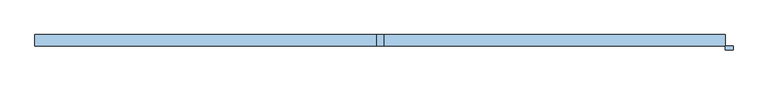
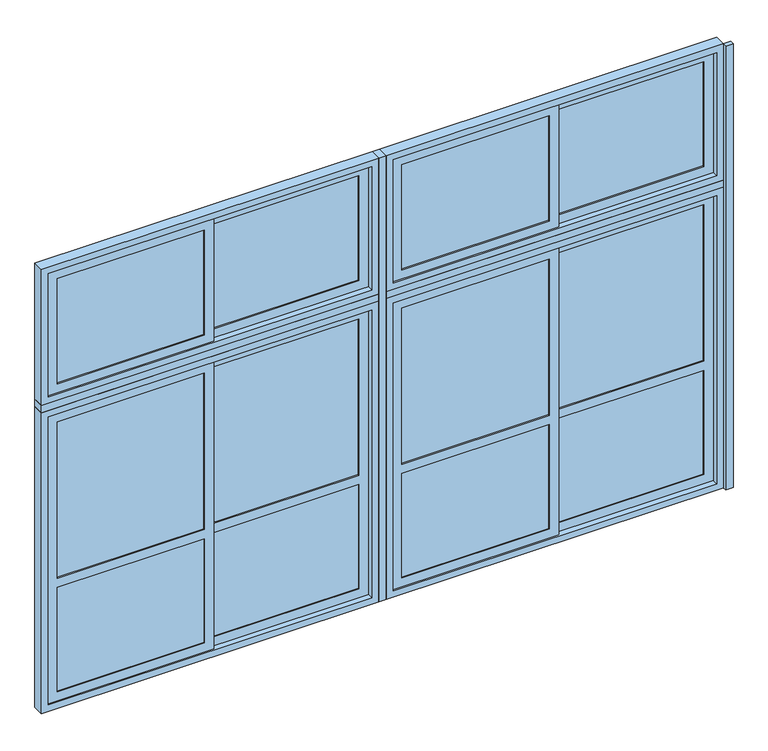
"""IFC4 building model written with IfcOpenShell, lengths in millimetres: window geometry, A11 Ventana_Corrediza_PC_4 hojas : A11.2 Ventana_Corrediza_PAl_4 hojas 450x310."""

from ifc_helpers import new_model, si_unit, frame, origin, origin_with_axes, place, context, project, spatial, polyline, outline, extrude, source, transform, mapped, element, save


def window_256b1bda(model_context):
    return source(origin(), model_context, "Body", "SweptSolid", [
        extrude(outline(polyline([(-1169.0, 28.0), (-2142.0, 28.0), (-2142.0, 44.0), (-1169.0, 44.0), (-1169.0, 28.0)])), frame((0.0, 0.0, 108.0), z_axis=(0.0, 0.0, 1.0), x_axis=(1.0, 0.0, 0.0)), (0.0, 0.0, 1.0), 728.0),
        extrude(outline(polyline([(-133.0, 56.0), (-1106.0, 56.0), (-1106.0, 72.0), (-133.0, 72.0), (-133.0, 56.0)])), frame((0.0, 0.0, 108.0), z_axis=(0.0, 0.0, 1.0), x_axis=(1.0, 0.0, 0.0)), (0.0, 0.0, 1.0), 728.0),
        extrude(outline(polyline([(-1169.0, 31.5769719), (-2142.0, 31.5769719), (-2142.0, 40.4230281), (-1169.0, 40.4230281), (-1169.0, 31.5769719)])), frame((0.0, 0.0, 2258.0), z_axis=(0.0, 0.0, 1.0), x_axis=(1.0, 0.0, 0.0)), (0.0, 0.0, 1.0), 734.0),
        extrude(outline(polyline([(-1169.0, 31.5769719), (-2142.0, 31.5769719), (-2142.0, 40.4230281), (-1169.0, 40.4230281), (-1169.0, 31.5769719)])), frame((0.0, 0.0, 900.0), z_axis=(0.0, 0.0, 1.0), x_axis=(1.0, 0.0, 0.0)), (0.0, 0.0, 1.0), 1092.0),
        extrude(outline(polyline([(-133.0, 59.5769719), (-1106.0, 59.5769719), (-1106.0, 68.4230281), (-133.0, 68.4230281), (-133.0, 59.5769719)])), frame((0.0, 0.0, 2258.0), z_axis=(0.0, 0.0, 1.0), x_axis=(1.0, 0.0, 0.0)), (0.0, 0.0, 1.0), 734.0),
        extrude(outline(polyline([(-133.0, 59.5769719), (-1106.0, 59.5769719), (-1106.0, 68.4230281), (-133.0, 68.4230281), (-133.0, 59.5769719)])), frame((0.0, 0.0, 900.0), z_axis=(0.0, 0.0, 1.0), x_axis=(1.0, 0.0, 0.0)), (0.0, 0.0, 1.0), 1092.0),
        extrude(outline(polyline([(3055.0, -2205.0), (2195.0, -2205.0), (2195.0, -1106.0), (3055.0, -1106.0), (3055.0, -2205.0)]), holes=[polyline([(2992.0, -2142.0), (2992.0, -1169.0), (2258.0, -1169.0), (2258.0, -2142.0), (2992.0, -2142.0)])]), frame((0.0, 22.0, 0.0), z_axis=(0.0, 1.0, 0.0), x_axis=(0.0, 0.0, 1.0)), (0.0, 0.0, 1.0), 28.0),
        extrude(outline(polyline([(2055.0, -2205.0), (45.0, -2205.0), (45.0, -1106.0), (2055.0, -1106.0), (2055.0, -2205.0)]), holes=[polyline([(1992.0, -2142.0), (1992.0, -1169.0), (900.0, -1169.0), (900.0, -2142.0), (1992.0, -2142.0)]), polyline([(836.0, -2142.0), (836.0, -1169.0), (108.0, -1169.0), (108.0, -2142.0), (836.0, -2142.0)])]), frame((0.0, 22.0, 0.0), z_axis=(0.0, 1.0, 0.0), x_axis=(0.0, 0.0, 1.0)), (0.0, 0.0, 1.0), 28.0),
        extrude(outline(polyline([(3055.0, -1169.0), (2195.0, -1169.0), (2195.0, -70.0), (3055.0, -70.0), (3055.0, -1169.0)]), holes=[polyline([(2992.0, -1106.0), (2992.0, -133.0), (2258.0, -133.0), (2258.0, -1106.0), (2992.0, -1106.0)])]), frame((0.0, 50.0, 0.0), z_axis=(0.0, 1.0, 0.0), x_axis=(0.0, 0.0, 1.0)), (0.0, 0.0, 1.0), 28.0),
        extrude(outline(polyline([(2055.0, -1169.0), (45.0, -1169.0), (45.0, -70.0), (2055.0, -70.0), (2055.0, -1169.0)]), holes=[polyline([(1992.0, -1106.0), (1992.0, -133.0), (900.0, -133.0), (900.0, -1106.0), (1992.0, -1106.0)]), polyline([(836.0, -1106.0), (836.0, -133.0), (108.0, -133.0), (108.0, -1106.0), (836.0, -1106.0)])]), frame((0.0, 50.0, 0.0), z_axis=(0.0, 1.0, 0.0), x_axis=(0.0, 0.0, 1.0)), (0.0, 0.0, 1.0), 28.0),
        extrude(outline(polyline([(1106.0, 28.0), (133.0, 28.0), (133.0, 44.0), (1106.0, 44.0), (1106.0, 28.0)])), frame((0.0, 0.0, 108.0), z_axis=(0.0, 0.0, 1.0), x_axis=(1.0, 0.0, 0.0)), (0.0, 0.0, 1.0), 728.0),
        extrude(outline(polyline([(2142.0, 56.0), (1169.0, 56.0), (1169.0, 72.0), (2142.0, 72.0), (2142.0, 56.0)])), frame((0.0, 0.0, 108.0), z_axis=(0.0, 0.0, 1.0), x_axis=(1.0, 0.0, 0.0)), (0.0, 0.0, 1.0), 728.0),
        extrude(outline(polyline([(1106.0, 31.5769719), (133.0, 31.5769719), (133.0, 40.4230281), (1106.0, 40.4230281), (1106.0, 31.5769719)])), frame((0.0, 0.0, 2258.0), z_axis=(0.0, 0.0, 1.0), x_axis=(1.0, 0.0, 0.0)), (0.0, 0.0, 1.0), 734.0),
        extrude(outline(polyline([(1106.0, 31.5769719), (133.0, 31.5769719), (133.0, 40.4230281), (1106.0, 40.4230281), (1106.0, 31.5769719)])), frame((0.0, 0.0, 900.0), z_axis=(0.0, 0.0, 1.0), x_axis=(1.0, 0.0, 0.0)), (0.0, 0.0, 1.0), 1092.0),
        extrude(outline(polyline([(2142.0, 59.5769719), (1169.0, 59.5769719), (1169.0, 68.4230281), (2142.0, 68.4230281), (2142.0, 59.5769719)])), frame((0.0, 0.0, 2258.0), z_axis=(0.0, 0.0, 1.0), x_axis=(1.0, 0.0, 0.0)), (0.0, 0.0, 1.0), 734.0),
        extrude(outline(polyline([(2142.0, 59.5769719), (1169.0, 59.5769719), (1169.0, 68.4230281), (2142.0, 68.4230281), (2142.0, 59.5769719)])), frame((0.0, 0.0, 900.0), z_axis=(0.0, 0.0, 1.0), x_axis=(1.0, 0.0, 0.0)), (0.0, 0.0, 1.0), 1092.0),
        extrude(outline(polyline([(45.0, 70.0), (45.0, 1169.0), (2055.0, 1169.0), (2055.0, 70.0), (45.0, 70.0)]), holes=[polyline([(900.0, 133.0), (1992.0, 133.0), (1992.0, 1106.0), (900.0, 1106.0), (900.0, 133.0)]), polyline([(108.0, 133.0), (836.0, 133.0), (836.0, 1106.0), (108.0, 1106.0), (108.0, 133.0)])]), frame((0.0, 22.0, 0.0), z_axis=(0.0, 1.0, 0.0), x_axis=(0.0, 0.0, 1.0)), (0.0, 0.0, 1.0), 28.0),
        extrude(outline(polyline([(3055.0, 70.0), (2195.0, 70.0), (2195.0, 1169.0), (3055.0, 1169.0), (3055.0, 70.0)]), holes=[polyline([(2258.0, 133.0), (2992.0, 133.0), (2992.0, 1106.0), (2258.0, 1106.0), (2258.0, 133.0)])]), frame((0.0, 22.0, 0.0), z_axis=(0.0, 1.0, 0.0), x_axis=(0.0, 0.0, 1.0)), (0.0, 0.0, 1.0), 28.0),
        extrude(outline(polyline([(2055.0, 2205.0), (2055.0, 1106.0), (45.0, 1106.0), (45.0, 2205.0), (2055.0, 2205.0)]), holes=[polyline([(1992.0, 1169.0), (1992.0, 2142.0), (900.0, 2142.0), (900.0, 1169.0), (1992.0, 1169.0)]), polyline([(836.0, 1169.0), (836.0, 2142.0), (108.0, 2142.0), (108.0, 1169.0), (836.0, 1169.0)])]), frame((0.0, 50.0, 0.0), z_axis=(0.0, 1.0, 0.0), x_axis=(0.0, 0.0, 1.0)), (0.0, 0.0, 1.0), 28.0),
        extrude(outline(polyline([(2195.0, 1106.0), (2195.0, 2205.0), (3055.0, 2205.0), (3055.0, 1106.0), (2195.0, 1106.0)]), holes=[polyline([(2992.0, 1169.0), (2992.0, 2142.0), (2258.0, 2142.0), (2258.0, 1169.0), (2992.0, 1169.0)])]), frame((0.0, 50.0, 0.0), z_axis=(0.0, 1.0, 0.0), x_axis=(0.0, 0.0, 1.0)), (0.0, 0.0, 1.0), 28.0),
        extrude(outline(polyline([(2100.0, 25.0), (0.0, 25.0), (0.0, 2250.0), (2100.0, 2250.0), (2100.0, 25.0)]), holes=[polyline([(2055.0, 70.0), (2055.0, 2205.0), (45.0, 2205.0), (45.0, 70.0), (2055.0, 70.0)])]), frame((0.0, 12.5, 0.0), z_axis=(0.0, 1.0, 0.0), x_axis=(0.0, 0.0, 1.0)), (0.0, 0.0, 1.0), 75.0),
        extrude(outline(polyline([(2100.0, -2250.0), (0.0, -2250.0), (0.0, -25.0), (2100.0, -25.0), (2100.0, -2250.0)]), holes=[polyline([(2055.0, -2205.0), (2055.0, -70.0), (45.0, -70.0), (45.0, -2205.0), (2055.0, -2205.0)])]), frame((0.0, 12.5, 0.0), z_axis=(0.0, 1.0, 0.0), x_axis=(0.0, 0.0, 1.0)), (0.0, 0.0, 1.0), 75.0),
        extrude(outline(polyline([(3100.0, 25.0), (2150.0, 25.0), (2150.0, 2250.0), (3100.0, 2250.0), (3100.0, 25.0)]), holes=[polyline([(3055.0, 70.0), (3055.0, 2205.0), (2195.0, 2205.0), (2195.0, 70.0), (3055.0, 70.0)])]), frame((0.0, 12.5, 0.0), z_axis=(0.0, 1.0, 0.0), x_axis=(0.0, 0.0, 1.0)), (0.0, 0.0, 1.0), 75.0),
        extrude(outline(polyline([(2150.0, -2250.0), (2150.0, -25.0), (3100.0, -25.0), (3100.0, -2250.0), (2150.0, -2250.0)]), holes=[polyline([(3055.0, -2205.0), (3055.0, -70.0), (2195.0, -70.0), (2195.0, -2205.0), (3055.0, -2205.0)])]), frame((0.0, 12.5, 0.0), z_axis=(0.0, 1.0, 0.0), x_axis=(0.0, 0.0, 1.0)), (0.0, 0.0, 1.0), 75.0),
        extrude(outline(polyline([(2250.0, 12.5), (25.0, 12.5), (25.0, 87.5), (2250.0, 87.5), (2250.0, 12.5)])), frame((0.0, 0.0, 2100.0), z_axis=(0.0, 0.0, 1.0), x_axis=(1.0, 0.0, 0.0)), (0.0, 0.0, 1.0), 50.0),
        extrude(outline(polyline([(-25.0, 12.5), (-2250.0, 12.5), (-2250.0, 87.5), (-25.0, 87.5), (-25.0, 12.5)])), frame((0.0, 0.0, 2100.0), z_axis=(0.0, 0.0, 1.0), x_axis=(1.0, 0.0, 0.0)), (0.0, 0.0, 1.0), 50.0),
        extrude(outline(polyline([(25.0, 12.5), (-25.0, 12.5), (-25.0, 87.5), (25.0, 87.5), (25.0, 12.5)])), origin_with_axes(), (0.0, 0.0, 1.0), 3100.0),
        extrude(outline(polyline([(2300.0, -12.5), (2250.0, -12.5), (2250.0, 12.5), (2300.0, 12.5), (2300.0, -12.5)])), origin_with_axes(), (0.0, 0.0, 1.0), 3100.0),
    ])


if __name__ == "__main__":
    model = new_model("IFC4")
    model_context = context("Model", 3, world=origin())
    ifc_project = project(units=[si_unit("LENGTHUNIT", "METRE", prefix="MILLI")], contexts=[model_context])
    site = spatial("IfcSite", under=ifc_project)
    building = spatial("IfcBuilding", under=site)
    placement = place(None, origin())
    window_shape = window_256b1bda(model_context)
    element("IfcWindow", 1, ObjectType="A11 Ventana_Corrediza_PC_4 hojas : A11.2 Ventana_Corrediza_PAl_4 hojas 450x310", at=placement, inside=building, context=model_context, shape_type="MappedRepresentation", body=[
        mapped(window_shape, transform((0.0, 0.0, 0.0), x_axis=(1.0, 0.0, 0.0), y_axis=(0.0, 1.0, 0.0), z_axis=(0.0, 0.0, 1.0))),
    ])
    save(model, "model.ifc")
